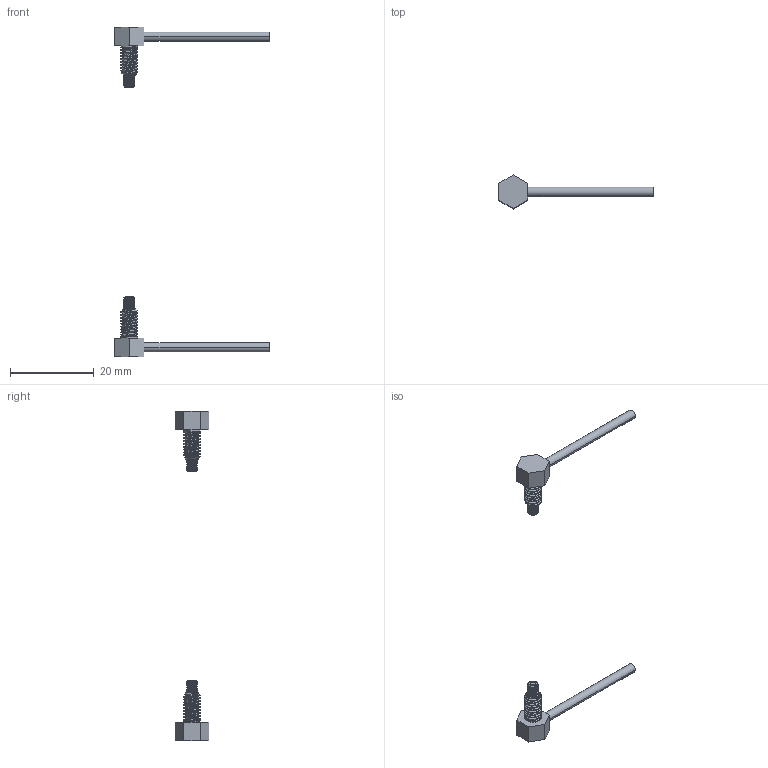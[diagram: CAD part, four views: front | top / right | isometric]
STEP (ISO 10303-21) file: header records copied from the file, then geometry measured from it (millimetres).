
FILE_DESCRIPTION (( 'STEP AP203' ), '1' );
FILE_NAME ('FQ-77TZ.STEP', '2020-11-03T07:57:06', ( '' ), ( '' ), 'SwSTEP 2.0', 'SolidWorks 2020', '' );
FILE_SCHEMA (( 'CONFIG_CONTROL_DESIGN' ));
Length unit declared in the file: millimetre
Products named in the file (3): FQ-77TZ_R; FQ-77TZ_T; FQ-77TZ
Assembly tree (2 placements, depth 2):
  FQ-77TZ
    FQ-77TZ_T
    FQ-77TZ_R
Bounding box: 37 x 8.08 x 78.8 mm (x, y, z)
Volume: 776 mm3; surface area: 1106.3 mm2
Topology: 2 solids, 2 shells, 126 faces, 534 edges, 422 vertices
Faces by surface type: cylinder 76, plane 26, bspline 16, cone 8
Entity records: 13393 total; most frequent: CARTESIAN_POINT 9371, ORIENTED_EDGE 1068, EDGE_CURVE 534, DIRECTION 432, VERTEX_POINT 422, B_SPLINE_CURVE_WITH_KNOTS 318, AXIS2_PLACEMENT_3D 157, EDGE_LOOP 136
